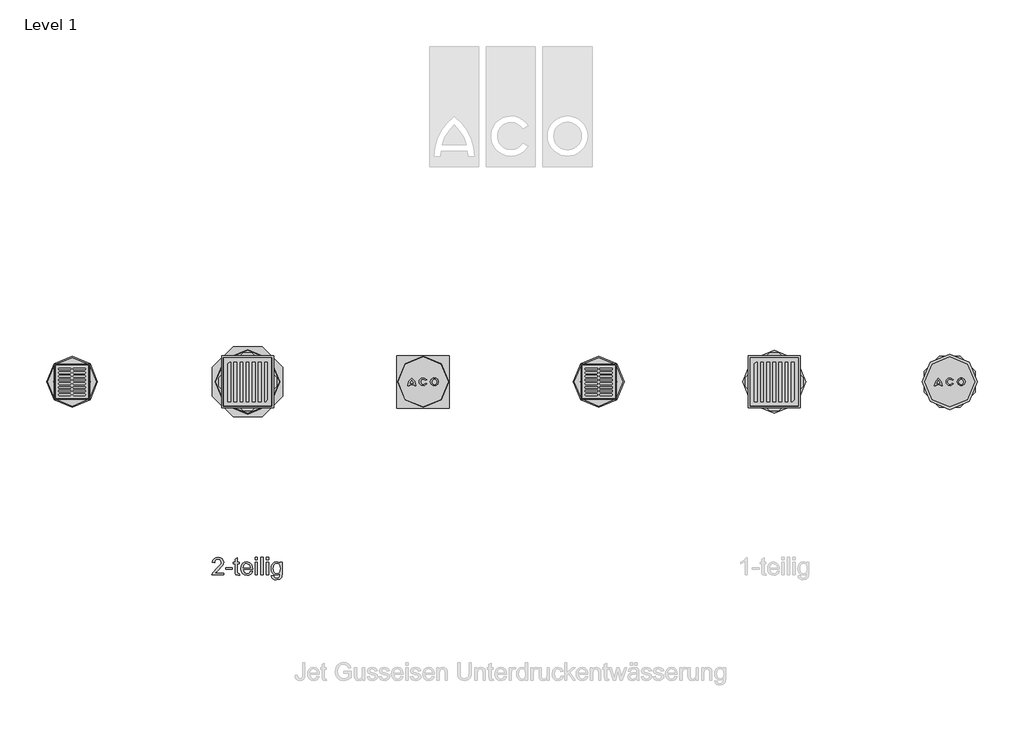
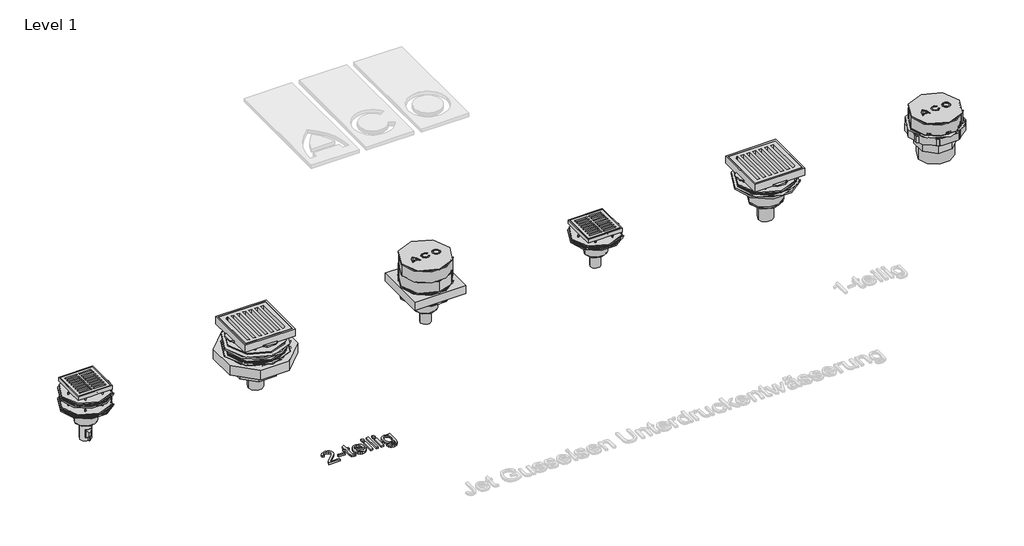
# One storey, part 1 of 2: 35 sanitary terminals, 2 unitary equipment elements, 1 proxy.
"""IFC4 building model written with IfcOpenShell, lengths in millimetres."""

from ifc_helpers import new_model, si_unit, origin, origin_with_axes, place, context, project, spatial, polyline, outline, extrude, transform, mapped, element, save
from components import dn50_1aebd825, std_ecaa86e3, std_82fbe6ac, std_e8784c35, std_9cb41771, std_f6b0b17c, std_5ca6e648, std_nested_059c46f9, std_nested_134ac697, std_nested_9174bdc3, std_nested_e6102d04, std_nested_2427ce80, std_nested_2ed47152, std_nested_3392732c, std_nested_2c1d07d8, std_nested_6056e155, std_nested_ca8b4cce, std_nested_2f0308f6, std_nested_7d449d44, std_nested_8367c126

model = new_model("IFC4")

# Units and contexts
model_context = context("Model", 3, world=origin())
ifc_project = project(units=[si_unit("LENGTHUNIT", "METRE", prefix="MILLI")], contexts=[model_context])

# Site, building, storey
site = spatial("IfcSite", under=ifc_project)
building = spatial("IfcBuilding", under=site)
storey = spatial("IfcBuildingStorey", under=building, Name="Level 1", Elevation=0.0)

# Proxy
placement = place(None, origin())
element("IfcBuildingElementProxy", 1, Name="100mm ACO", ObjectType="100mm ACO", at=placement, inside=storey, context=model_context, shape_type="SweptSolid", body=[
    extrude(outline(polyline([(-511.1111111, -100.0), (-577.7777778, -100.0), (-571.8171296, -84.4039352), (-549.7974537, -62.7893519), (-532.03125, -45.4571759), (-526.0633681, -36.4293981), (-524.0740741, -27.34375), (-529.4994213, -14.380787), (-543.2002315, -9.2592593), (-557.2337963, -14.3663194), (-561.5017361, -20.7356771), (-562.962963, -29.6296296), (-575.9259259, -28.2407407), (-572.7864583, -16.1385995), (-565.7407407, -7.2627315), (-555.5266204, -1.8156829), (-542.8819444, 0.0), (-529.5247396, -2.0869502), (-519.4878472, -8.3478009), (-513.2052951, -17.5600405), (-511.1111111, -28.5011574), (-512.8616898, -38.4042245), (-518.1134259, -48.4375), (-545.5439815, -75.9548611), (-561.1111111, -90.7407407), (-511.1111111, -90.7407407), (-511.1111111, -100.0)])), origin_with_axes(), (0.0, 0.0, 1.0), 10.0),
    extrude(outline(polyline([(-461.1111111, -66.6666667), (-500.0, -66.6666667), (-500.0, -57.4074074), (-461.1111111, -57.4074074), (-461.1111111, -66.6666667)])), origin_with_axes(), (0.0, 0.0, 1.0), 10.0),
    extrude(outline(polyline([(-420.3703704, -101.0127315), (-429.4560185, -101.8518519), (-441.0445602, -98.9728009), (-445.4861111, -91.6666667), (-446.2962963, -79.3402778), (-446.2962963, -37.037037), (-455.5555556, -37.037037), (-455.5555556, -27.7777778), (-446.2962963, -27.7777778), (-446.2962963, -9.4328704), (-433.3333333, -1.8518519), (-433.3333333, -27.7777778), (-422.2222222, -27.7777778), (-422.2222222, -37.037037), (-433.3333333, -37.037037), (-433.3333333, -81.9444444), (-432.2916667, -90.162037), (-426.9965278, -92.5925926), (-421.9618056, -92.5925926), (-420.3703704, -101.0127315)])), origin_with_axes(), (0.0, 0.0, 1.0), 10.0),
    extrude(outline(polyline([(-346.2962963, -66.6666667), (-400.0, -66.6666667), (-397.9275174, -77.7922454), (-393.2146991, -85.9375), (-386.433015, -90.9288194), (-378.1539352, -92.5925926), (-366.478588, -88.9033565), (-359.2592593, -77.7777778), (-346.2962963, -79.2824074), (-350.6727431, -88.9033565), (-357.6099537, -96.0069444), (-366.8547454, -100.390625), (-378.1539352, -101.8518519), (-392.7408854, -99.3453414), (-403.7471065, -91.8258102), (-410.6589988, -79.9660012), (-412.962963, -64.4386574), (-410.7421875, -48.900463), (-404.0798611, -36.6030093), (-393.3810764, -28.5951968), (-379.0509259, -25.9259259), (-363.8310185, -29.3836806), (-351.4033565, -41.1603009), (-347.5730613, -51.6963252), (-346.2962963, -66.6666667)]), holes=[polyline([(-359.2592593, -57.4074074), (-361.3425926, -47.2511574), (-366.087963, -40.3935185), (-379.369213, -35.1851852), (-387.2251157, -36.7332176), (-393.5474537, -41.3773148), (-400.0, -57.4074074), (-359.2592593, -57.4074074)])]), origin_with_axes(), (0.0, 0.0, 1.0), 10.0),
    extrude(outline(polyline([(-318.5185185, -12.962963), (-331.4814815, -12.962963), (-331.4814815, 0.0), (-318.5185185, 0.0), (-318.5185185, -12.962963)])), origin_with_axes(), (0.0, 0.0, 1.0), 10.0),
    extrude(outline(polyline([(-318.5185185, -100.0), (-331.4814815, -100.0), (-331.4814815, -27.7777778), (-318.5185185, -27.7777778), (-318.5185185, -100.0)])), origin_with_axes(), (0.0, 0.0, 1.0), 10.0),
    extrude(outline(polyline([(-287.037037, -100.0), (-300.0, -100.0), (-300.0, 0.0), (-287.037037, 0.0), (-287.037037, -100.0)])), origin_with_axes(), (0.0, 0.0, 1.0), 10.0),
    extrude(outline(polyline([(-255.5555556, -12.962963), (-268.5185185, -12.962963), (-268.5185185, 0.0), (-255.5555556, 0.0), (-255.5555556, -12.962963)])), origin_with_axes(), (0.0, 0.0, 1.0), 10.0),
    extrude(outline(polyline([(-255.5555556, -100.0), (-268.5185185, -100.0), (-268.5185185, -27.7777778), (-255.5555556, -27.7777778), (-255.5555556, -100.0)])), origin_with_axes(), (0.0, 0.0, 1.0), 10.0),
    extrude(outline(polyline([(-177.7777778, -89.3518519), (-180.8304398, -111.9936343), (-191.6956019, -123.6255787), (-210.3587963, -127.7777778), (-221.5747975, -126.3708044), (-230.7436343, -122.1498843), (-236.8525752, -114.7243924), (-238.8888889, -103.7037037), (-225.9259259, -105.7581019), (-221.3541667, -115.3211806), (-210.15625, -118.5185185), (-196.8460648, -114.8292824), (-191.6811343, -105.8449074), (-190.7407407, -91.2326389), (-199.5153356, -97.8081597), (-210.3298611, -100.0), (-222.7213542, -97.3885995), (-232.4074074, -89.5543981), (-238.6574074, -77.7416088), (-240.7407407, -63.1944444), (-238.7586806, -48.5532407), (-232.8125, -36.5740741), (-223.365162, -28.587963), (-210.8796296, -25.9259259), (-199.8046875, -28.3058449), (-191.0011574, -35.4456019), (-190.7407407, -27.7777778), (-177.7777778, -27.7777778), (-177.7777778, -89.3518519)]), holes=[polyline([(-208.3912037, -90.7407407), (-201.1791088, -89.134838), (-194.8206019, -84.3171296), (-190.3718171, -75.7233796), (-188.8888889, -62.7893519), (-190.3030961, -51.0018808), (-194.5457176, -42.3177083), (-200.8716725, -36.968316), (-208.5358796, -35.1851852), (-216.2579572, -37.0117187), (-222.4103009, -42.4913194), (-226.4359086, -51.1465567), (-227.7777778, -62.5), (-226.3708044, -75.2170139), (-222.1498843, -83.9699074), (-215.8962674, -89.0480324), (-208.3912037, -90.7407407)])]), origin_with_axes(), (0.0, 0.0, 1.0), 10.0),
])

# Sanitary terminals
dn50_shape = dn50_1aebd825(model_context)
element("IfcSanitaryTerminal", 2, ObjectType="PF_GEN_UN_single body with gravel trap Passavant Jet_ACO : DN50", at=placement, inside=storey, context=model_context, shape_type="MappedRepresentation", body=[
    mapped(dn50_shape, transform((3625.0, 1000.0, 0.0), x_axis=(1.0, 0.0, 0.0), y_axis=(0.0, 1.0, 0.0), z_axis=(0.0, 0.0, 1.0))),
])
std_shape = std_ecaa86e3(model_context)
element("IfcSanitaryTerminal", 3, ObjectType="PF_GEN_UN_double body with gravel trap Passavant Jet_ACO : DN50", at=placement, inside=storey, context=model_context, shape_type="MappedRepresentation", body=[
    mapped(std_shape, transform((625.0, 1000.0, 0.0), x_axis=(1.0, 0.0, 0.0), y_axis=(0.0, 1.0, 0.0), z_axis=(0.0, 0.0, 1.0))),
])
std_2_shape = std_82fbe6ac(model_context)
element("IfcSanitaryTerminal", 4, ObjectType="PF_GEN_UN_single body with grating DN50 Passavant Jet_ACO : std", at=placement, inside=storey, context=model_context, shape_type="MappedRepresentation", body=[
    mapped(std_2_shape, transform((1625.0, 1000.0, 0.0), x_axis=(1.0, 0.0, 0.0), y_axis=(0.0, 1.0, 0.0), z_axis=(0.0, 0.0, 1.0))),
])
std_3_shape = std_e8784c35(model_context)
element("IfcSanitaryTerminal", 5, ObjectType="PF_GEN_UN_single body with grating DN80 Passavant Jet_ACO : std", at=placement, inside=storey, context=model_context, shape_type="MappedRepresentation", body=[
    mapped(std_3_shape, transform((2625.0, 1000.0, 0.0), x_axis=(1.0, 0.0, 0.0), y_axis=(0.0, 1.0, 0.0), z_axis=(0.0, 0.0, 1.0))),
])
element("IfcSanitaryTerminal", 6, ObjectType="PF_GEN_UN_double body with grating DN50 Passavant Jet_ACO : std", at=placement, inside=storey, context=model_context, shape_type="MappedRepresentation", body=[
    mapped(std_shape, transform((-1375.0, 1000.0, 0.0), x_axis=(1.0, 0.0, 0.0), y_axis=(0.0, 1.0, 0.0), z_axis=(0.0, 0.0, 1.0))),
])
std_4_shape = std_9cb41771(model_context)
element("IfcSanitaryTerminal", 7, ObjectType="PF_GEN_UN_double body with grating DN80 Passavant Jet_ACO : std", at=placement, inside=storey, context=model_context, shape_type="MappedRepresentation", body=[
    mapped(std_4_shape, transform((-375.0, 1000.0, 0.0), x_axis=(1.0, 0.0, 0.0), y_axis=(0.0, 1.0, 0.0), z_axis=(0.0, 0.0, 1.0))),
])
std_5_shape = std_f6b0b17c(model_context)
element("IfcSanitaryTerminal", 8, ObjectType="ZZZ_do_not_use_PF_CI_WPB_top frame with grating for Passavant Jet_ACO : std", at=placement, inside=storey, context=model_context, shape_type="MappedRepresentation", body=[
    mapped(std_5_shape, transform((-1375.0, 1000.0, 85.5), x_axis=(1.0, 0.0, 0.0), y_axis=(0.0, 1.0, 0.0), z_axis=(0.0, 0.0, 1.0))),
])
std_6_shape = std_5ca6e648(model_context)
element("IfcSanitaryTerminal", 9, ObjectType="ZZZ_do_not_use_PF_CI_WPB_top frame with grating for Passavant Jet_ACO : std", at=placement, inside=storey, context=model_context, shape_type="MappedRepresentation", body=[
    mapped(std_6_shape, transform((-375.0, 1000.0, 65.5), x_axis=(1.0, 0.0, 0.0), y_axis=(0.0, 1.0, 0.0), z_axis=(0.0, 0.0, 1.0))),
])
element("IfcSanitaryTerminal", 10, ObjectType="ZZZ_do_not_use_PF_CI_WPB_top frame with grating for Passavant Jet_ACO : std", at=placement, inside=storey, context=model_context, shape_type="MappedRepresentation", body=[
    mapped(std_6_shape, transform((2625.0, 1000.0, 15.5), x_axis=(1.0, 0.0, 0.0), y_axis=(0.0, 1.0, 0.0), z_axis=(0.0, 0.0, 1.0))),
])
element("IfcSanitaryTerminal", 11, ObjectType="ZZZ_do_not_use_PF_CI_WPB_top frame with grating for Passavant Jet_ACO : std", at=placement, inside=storey, context=model_context, shape_type="MappedRepresentation", body=[
    mapped(std_5_shape, transform((1625.0, 1000.0, 15.5), x_axis=(1.0, 0.0, 0.0), y_axis=(0.0, 1.0, 0.0), z_axis=(0.0, 0.0, 1.0))),
])
std_nested_shape = std_nested_059c46f9(model_context)
element("IfcSanitaryTerminal", 12, ObjectType="ZZZ_do not use_PF_CI_WPB_lower section for Passavant Jet_ACO : std (nested)", at=placement, inside=storey, context=model_context, shape_type="MappedRepresentation", body=[
    mapped(std_nested_shape, transform((-1375.0, 1000.0, 0.0), x_axis=(1.0, 0.0, 0.0), y_axis=(0.0, 1.0, 0.0), z_axis=(0.0, 0.0, 1.0))),
])
element("IfcSanitaryTerminal", 13, ObjectType="ZZZ_do not use_PF_CI_WPB_lower section for Passavant Jet_ACO : std (nested)", at=placement, inside=storey, context=model_context, shape_type="MappedRepresentation", body=[
    mapped(std_nested_shape, transform((3625.0, 1000.0, 0.0), x_axis=(1.0, 0.0, 0.0), y_axis=(0.0, 1.0, 0.0), z_axis=(0.0, 0.0, 1.0))),
])
std_nested_2_shape = std_nested_134ac697(model_context)
element("IfcSanitaryTerminal", 14, ObjectType="ZZZ_do not use_PF_ST_WPB_levelling height for Passavant Jet_ACO : std (nested)", at=placement, inside=storey, context=model_context, shape_type="MappedRepresentation", body=[
    mapped(std_nested_2_shape, transform((625.0, 1000.0, 75.0), x_axis=(0.0, 1.0, 0.0), y_axis=(-1.0, 0.0, 0.0), z_axis=(0.0, 0.0, 1.0))),
])
std_nested_3_shape = std_nested_9174bdc3(model_context)
element("IfcSanitaryTerminal", 15, ObjectType="ZZZ_do not use_PF_ST_WPB_gravel trap cover for Passavant Jet_ACO : std (nested)", at=placement, inside=storey, context=model_context, shape_type="MappedRepresentation", body=[
    mapped(std_nested_3_shape, transform((625.0, 1000.0, 140.0), x_axis=(1.0, 0.0, 0.0), y_axis=(0.0, 1.0, 0.0), z_axis=(0.0, 0.0, 1.0))),
])
element("IfcSanitaryTerminal", 16, ObjectType="ZZZ_do not use_PF_ST_WPB_gravel trap cover for Passavant Jet_ACO : std (nested)", at=placement, inside=storey, context=model_context, shape_type="MappedRepresentation", body=[
    mapped(std_nested_3_shape, transform((3625.0, 1000.0, 5.0), x_axis=(1.0, 0.0, 0.0), y_axis=(0.0, 1.0, 0.0), z_axis=(0.0, 0.0, 1.0))),
])
std_nested_4_shape = std_nested_e6102d04(model_context)
element("IfcSanitaryTerminal", 17, ObjectType="ZZZ_do not use_PF_CG_WPB_insulating body lower section for Passavant Jet_ACO : std (nested)", at=placement, inside=storey, context=model_context, shape_type="MappedRepresentation", body=[
    mapped(std_nested_4_shape, transform((3625.0, 1000.0, -5.0), x_axis=(1.0, 0.0, 0.0), y_axis=(0.0, 1.0, 0.0), z_axis=(0.0, 0.0, 1.0))),
])
std_nested_5_shape = std_nested_2427ce80(model_context)
element("IfcSanitaryTerminal", 18, ObjectType="ZZZ_do not use_PF_CG_WPB_compensation element for Passavant Jet_ACO : std (nested)", at=placement, inside=storey, context=model_context, shape_type="MappedRepresentation", body=[
    mapped(std_nested_5_shape, transform((625.0, 1000.0, 15.5), x_axis=(1.0, 0.0, 0.0), y_axis=(0.0, 1.0, 0.0), z_axis=(0.0, 0.0, 1.0))),
])
std_nested_6_shape = std_nested_2ed47152(model_context)
element("IfcSanitaryTerminal", 19, ObjectType="ZZZ_do not use_PF_ST_WPB_pilot tube for Passavant Jet_ACO : std (nested)", at=placement, inside=storey, context=model_context, shape_type="MappedRepresentation", body=[
    mapped(std_nested_6_shape, transform((625.0, 1000.0, 85.5), x_axis=(0.0, 1.0, 0.0), y_axis=(-1.0, 0.0, 0.0), z_axis=(0.0, 0.0, 1.0))),
])
std_nested_7_shape = std_nested_3392732c(model_context)
element("IfcSanitaryTerminal", 20, ObjectType="ZZZ_do not use_PF_CG_WPB_insulating body lower section for Passavant Jet_ACO : std (nested)", at=placement, inside=storey, context=model_context, shape_type="MappedRepresentation", body=[
    mapped(std_nested_7_shape, transform((-375.0, 1000.0, 0.0), x_axis=(1.0, 0.0, 0.0), y_axis=(0.0, 1.0, 0.0), z_axis=(0.0, 0.0, 1.0))),
])
std_nested_8_shape = std_nested_2c1d07d8(model_context)
element("IfcSanitaryTerminal", 21, ObjectType="ZZZ_do not use_PF_CI_WPB_lower section for Passavant Jet_ACO : std (nested)", at=placement, inside=storey, context=model_context, shape_type="MappedRepresentation", body=[
    mapped(std_nested_8_shape, transform((-375.0, 1000.0, 0.0), x_axis=(1.0, 0.0, 0.0), y_axis=(0.0, 1.0, 0.0), z_axis=(0.0, 0.0, 1.0))),
])
element("IfcSanitaryTerminal", 22, ObjectType="ZZZ_do not use_PF_CI_WPB_lower section for Passavant Jet_ACO : std (nested)", at=placement, inside=storey, context=model_context, shape_type="MappedRepresentation", body=[
    mapped(std_nested_8_shape, transform((2625.0, 1000.0, 0.0), x_axis=(1.0, 0.0, 0.0), y_axis=(0.0, 1.0, 0.0), z_axis=(0.0, 0.0, 1.0))),
])
element("IfcSanitaryTerminal", 23, ObjectType="ZZZ_do not use_PF_CI_WPB_lower section for Passavant Jet_ACO : std (nested)", at=placement, inside=storey, context=model_context, shape_type="MappedRepresentation", body=[
    mapped(std_nested_shape, transform((625.0, 1000.0, 0.0), x_axis=(1.0, 0.0, 0.0), y_axis=(0.0, 1.0, 0.0), z_axis=(0.0, 0.0, 1.0))),
])
element("IfcSanitaryTerminal", 24, ObjectType="ZZZ_do not use_PF_CI_WPB_lower section for Passavant Jet_ACO : std (nested)", at=placement, inside=storey, context=model_context, shape_type="MappedRepresentation", body=[
    mapped(std_nested_shape, transform((1625.0, 1000.0, 0.0), x_axis=(1.0, 0.0, 0.0), y_axis=(0.0, 1.0, 0.0), z_axis=(0.0, 0.0, 1.0))),
])
std_nested_9_shape = std_nested_6056e155(model_context)
element("IfcSanitaryTerminal", 25, ObjectType="ZZZ_do not use_PF_CI_WPB_upper part for Passavant Jet_ACO : std (nested)", at=placement, inside=storey, context=model_context, shape_type="MappedRepresentation", body=[
    mapped(std_nested_9_shape, transform((-1375.0, 1000.0, 70.0), x_axis=(1.0, 0.0, 0.0), y_axis=(0.0, 1.0, 0.0), z_axis=(0.0, 0.0, 1.0))),
])
element("IfcSanitaryTerminal", 26, ObjectType="ZZZ_do not use_PF_CI_WPB_upper part for Passavant Jet_ACO : std (nested)", at=placement, inside=storey, context=model_context, shape_type="MappedRepresentation", body=[
    mapped(std_nested_9_shape, transform((625.0, 1000.0, 70.0), x_axis=(1.0, 0.0, 0.0), y_axis=(0.0, 1.0, 0.0), z_axis=(0.0, 0.0, 1.0))),
])
std_nested_10_shape = std_nested_ca8b4cce(model_context)
element("IfcSanitaryTerminal", 27, ObjectType="ZZZ_do not use_PF_CI_WPB_upper part for Passavant Jet_ACO : std (nested)", at=placement, inside=storey, context=model_context, shape_type="MappedRepresentation", body=[
    mapped(std_nested_10_shape, transform((-375.0, 1000.0, 50.0), x_axis=(1.0, 0.0, 0.0), y_axis=(0.0, 1.0, 0.0), z_axis=(0.0, 0.0, 1.0))),
])
std_nested_11_shape = std_nested_2f0308f6(model_context)
element("IfcSanitaryTerminal", 28, ObjectType="ZZZ_do not use_PF_GEN_WPB_flange seal for Passavant Jet_ACO : std (nested)", at=placement, inside=storey, context=model_context, shape_type="MappedRepresentation", body=[
    mapped(std_nested_11_shape, transform((-1375.0, 1000.0, 0.0), x_axis=(1.0, 0.0, 0.0), y_axis=(0.0, 1.0, 0.0), z_axis=(0.0, 0.0, 1.0))),
])
element("IfcSanitaryTerminal", 29, ObjectType="ZZZ_do not use_PF_GEN_WPB_flange seal for Passavant Jet_ACO : std (nested)", at=placement, inside=storey, context=model_context, shape_type="MappedRepresentation", body=[
    mapped(std_nested_11_shape, transform((-1375.0, 1000.0, 70.0), x_axis=(1.0, 0.0, 0.0), y_axis=(0.0, 1.0, 0.0), z_axis=(0.0, 0.0, 1.0))),
])
element("IfcSanitaryTerminal", 30, ObjectType="ZZZ_do not use_PF_GEN_WPB_flange seal for Passavant Jet_ACO : std (nested)", at=placement, inside=storey, context=model_context, shape_type="MappedRepresentation", body=[
    mapped(std_nested_11_shape, transform((-375.0, 1000.0, 50.0), x_axis=(1.0, 0.0, 0.0), y_axis=(0.0, 1.0, 0.0), z_axis=(0.0, 0.0, 1.0))),
])
element("IfcSanitaryTerminal", 31, ObjectType="ZZZ_do not use_PF_GEN_WPB_flange seal for Passavant Jet_ACO : std (nested)", at=placement, inside=storey, context=model_context, shape_type="MappedRepresentation", body=[
    mapped(std_nested_11_shape, transform((625.0, 1000.0, 0.0), x_axis=(1.0, 0.0, 0.0), y_axis=(0.0, 1.0, 0.0), z_axis=(0.0, 0.0, 1.0))),
])
element("IfcSanitaryTerminal", 32, ObjectType="ZZZ_do not use_PF_GEN_WPB_flange seal for Passavant Jet_ACO : std (nested)", at=placement, inside=storey, context=model_context, shape_type="MappedRepresentation", body=[
    mapped(std_nested_11_shape, transform((625.0, 1000.0, 70.0), x_axis=(1.0, 0.0, 0.0), y_axis=(0.0, 1.0, 0.0), z_axis=(0.0, 0.0, 1.0))),
])
element("IfcSanitaryTerminal", 33, ObjectType="ZZZ_do not use_PF_GEN_WPB_flange seal for Passavant Jet_ACO : std (nested)", at=placement, inside=storey, context=model_context, shape_type="MappedRepresentation", body=[
    mapped(std_nested_11_shape, transform((1625.0, 1000.0, 0.0), x_axis=(1.0, 0.0, 0.0), y_axis=(0.0, 1.0, 0.0), z_axis=(0.0, 0.0, 1.0))),
])
element("IfcSanitaryTerminal", 34, ObjectType="ZZZ_do not use_PF_GEN_WPB_flange seal for Passavant Jet_ACO : std (nested)", at=placement, inside=storey, context=model_context, shape_type="MappedRepresentation", body=[
    mapped(std_nested_11_shape, transform((3625.0, 1000.0, 0.0), x_axis=(1.0, 0.0, 0.0), y_axis=(0.0, 1.0, 0.0), z_axis=(0.0, 0.0, 1.0))),
])
std_nested_12_shape = std_nested_7d449d44(model_context)
element("IfcSanitaryTerminal", 35, ObjectType="ZZZ_do not use_PF_GEN_WPB_flange seal for Passavant Jet_ACO : std (nested)", at=placement, inside=storey, context=model_context, shape_type="MappedRepresentation", body=[
    mapped(std_nested_12_shape, transform((-375.0, 1000.0, 0.0), x_axis=(1.0, 0.0, 0.0), y_axis=(0.0, 1.0, 0.0), z_axis=(0.0, 0.0, 1.0))),
])
element("IfcSanitaryTerminal", 36, ObjectType="ZZZ_do not use_PF_GEN_WPB_flange seal for Passavant Jet_ACO : std (nested)", at=placement, inside=storey, context=model_context, shape_type="MappedRepresentation", body=[
    mapped(std_nested_12_shape, transform((2625.0, 1000.0, 0.0), x_axis=(1.0, 0.0, 0.0), y_axis=(0.0, 1.0, 0.0), z_axis=(0.0, 0.0, 1.0))),
])

# Unitary equipment
std_nested_13_shape = std_nested_8367c126(model_context)
element("IfcUnitaryEquipment", 37, ObjectType="ZZZ_do not use_ME_GEN_WPB_flat roof heating for Passavant Jet_ACO : std (nested)", at=placement, inside=storey, context=model_context, shape_type="MappedRepresentation", body=[
    mapped(std_nested_13_shape, transform((-1375.0, 1000.0, -218.5), x_axis=(-1.0, 0.0, 0.0), y_axis=(0.0, 1.0, 0.0), z_axis=(0.0, 0.0, -1.0))),
])
element("IfcUnitaryEquipment", 38, ObjectType="ZZZ_do not use_ME_GEN_WPB_flat roof heating for Passavant Jet_ACO : std (nested)", at=placement, inside=storey, context=model_context, shape_type="MappedRepresentation", body=[
    mapped(std_nested_13_shape, transform((3625.0, 1000.0, -218.5), x_axis=(-1.0, 0.0, 0.0), y_axis=(0.0, 1.0, 0.0), z_axis=(0.0, 0.0, -1.0))),
])

save(model, "model.ifc")
